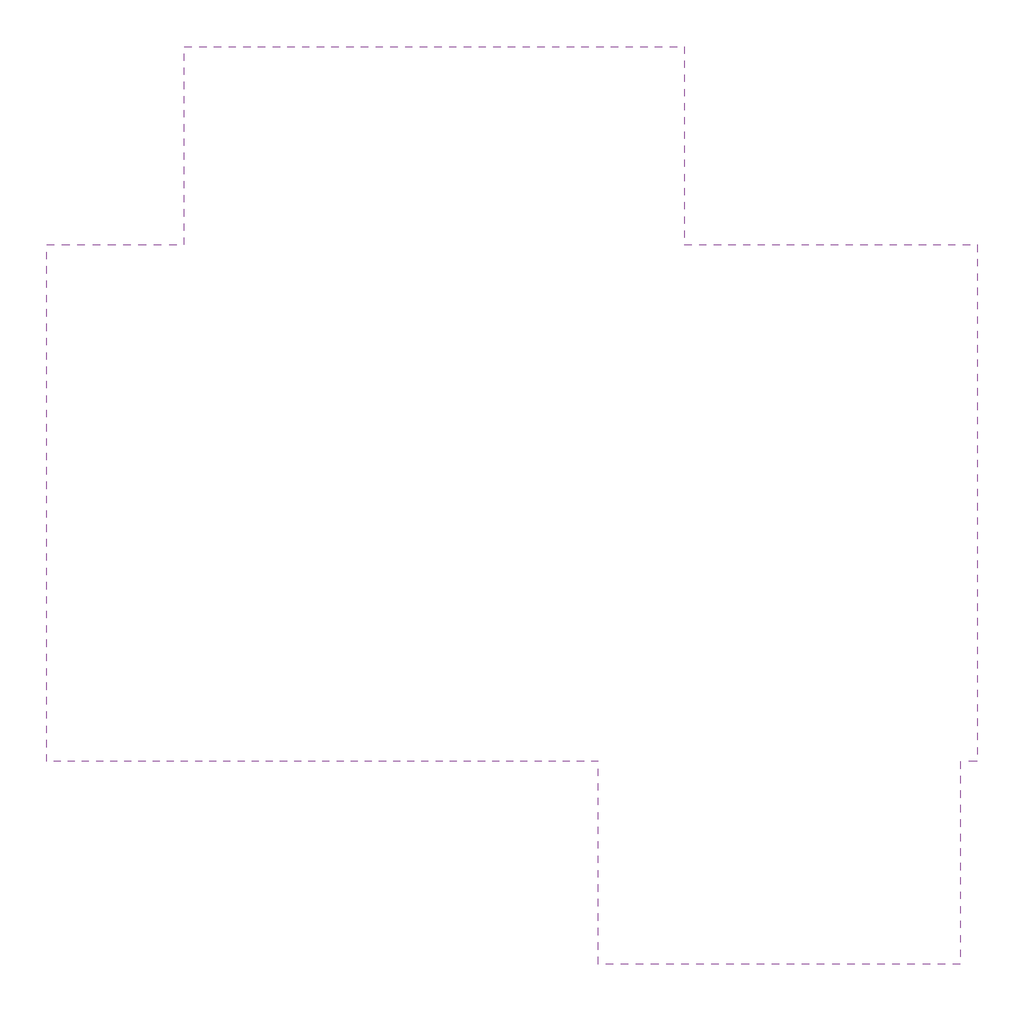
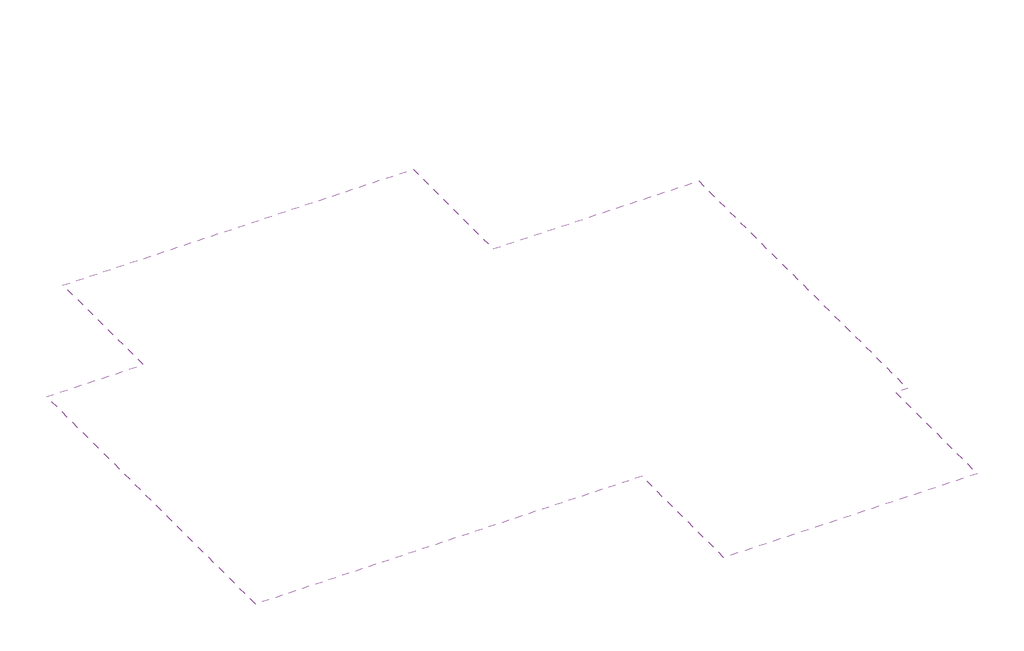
# One storey: 1 roof.
"""IFC4 building model written with IfcOpenShell, lengths in millimetres."""

from ifc_helpers import new_model, si_unit, origin, place, context, project, spatial, faceted_brep, element, save

model = new_model("IFC4")

# Units and contexts
model_context = context("Model", 3, world=origin())
ifc_project = project(units=[si_unit("LENGTHUNIT", "METRE", prefix="MILLI")], contexts=[model_context])

# Site, building, storey
site = spatial("IfcSite", under=ifc_project)
building = spatial("IfcBuilding", under=site)
storey = spatial("IfcBuildingStorey", under=building, Name="标高 2", Elevation=4000.0)

# Roof
placement = place(None, origin())
element("IfcRoof", 1, ObjectType="常规 - 125mm", at=placement, inside=storey, context=model_context, shape_type="Brep", body=[
    faceted_brep([(-6767.1618462, -3594.7631486, 8549.7686969), (-6767.1618462, -594.7631486, 10549.7686969), (4032.8381538, -594.7631486, 10549.7686969), (4032.8381538, -3594.7631486, 8549.7686969), (3832.8381538, -3594.7631486, 8549.7686969), (1732.8381538, -1494.7631486, 9949.7686969), (-367.1618462, -3594.7631486, 8549.7686969), (3832.8381538, -5944.7631486, 8549.7686969), (1732.8381538, -5944.7631486, 9949.7686969), (-367.1618462, -5944.7631486, 8549.7686969), (-5167.1618462, 2405.2368514, 8549.7686969), (-2267.1618462, -494.7631486, 10483.1020302), (632.8381538, 2405.2368514, 8549.7686969), (4032.8381538, 2405.2368514, 8549.7686969), (-6767.1618462, 2405.2368514, 8549.7686969), (-2267.1618462, 4705.2368514, 10483.1020302), (-5167.1618462, 4705.2368514, 8549.7686969), (632.8381538, 4705.2368514, 8549.7686969), (-6767.1618462, -3594.7631486, 8700.0), (-367.1618462, -3594.7631486, 8700.0), (1732.8381538, -1494.7631486, 10100.0), (3832.8381538, -3594.7631486, 8700.0), (4032.8381538, -3594.7631486, 8700.0), (4032.8381538, -594.7631486, 10700.0), (-6767.1618462, -594.7631486, 10700.0), (3832.8381538, -5944.7631486, 8700.0), (1732.8381538, -5944.7631486, 10100.0), (-367.1618462, -5944.7631486, 8700.0), (-5167.1618462, 2405.2368514, 8700.0), (-6767.1618462, 2405.2368514, 8700.0), (4032.8381538, 2405.2368514, 8700.0), (632.8381538, 2405.2368514, 8700.0), (-2267.1618462, -494.7631486, 10633.3333333), (-2267.1618462, 4705.2368514, 10633.3333333), (-5167.1618462, 4705.2368514, 8700.0), (632.8381538, 4705.2368514, 8700.0)], [[[0, 1, 2, 3, 4, 5, 6]], [[4, 7, 8, 5]], [[9, 6, 5, 8]], [[10, 11, 12, 13, 2, 1, 14]], [[15, 11, 10, 16]], [[15, 17, 12, 11]], [[18, 19, 20, 21, 22, 23, 24]], [[25, 21, 20, 26]], [[19, 27, 26, 20]], [[28, 29, 24, 23, 30, 31, 32]], [[33, 34, 28, 32]], [[33, 32, 31, 35]], [[10, 28, 34, 16]], [[14, 29, 28, 10]], [[6, 19, 18, 0]], [[9, 27, 19, 6]], [[4, 21, 25, 7]], [[3, 22, 21, 4]], [[12, 31, 30, 13]], [[17, 35, 31, 12]], [[34, 33, 15, 16]], [[33, 35, 17, 15]], [[30, 23, 22, 3, 2, 13]], [[25, 26, 27, 9, 8, 7]], [[18, 24, 29, 14, 1, 0]]]),
])

save(model, "model.ifc")
